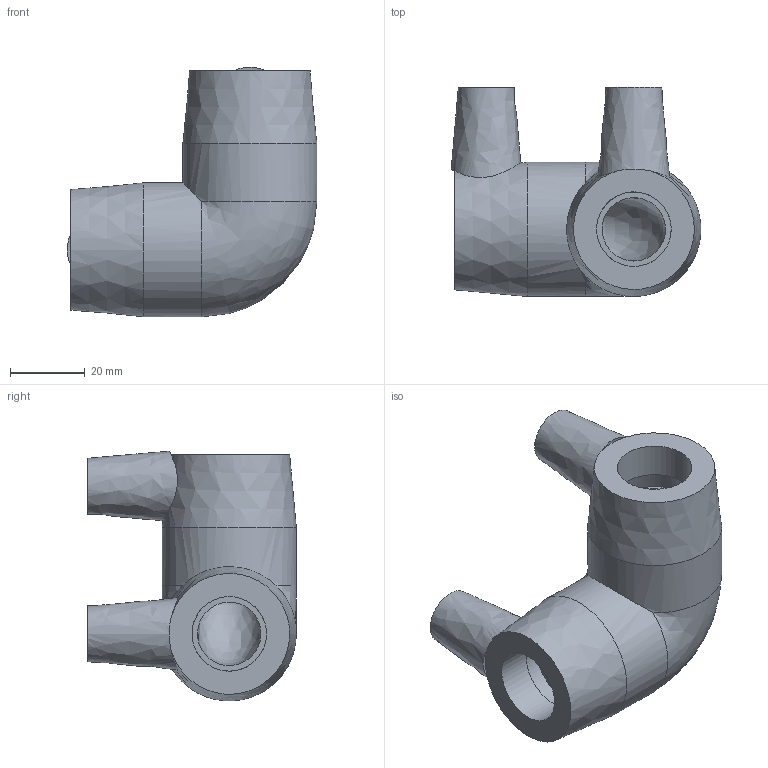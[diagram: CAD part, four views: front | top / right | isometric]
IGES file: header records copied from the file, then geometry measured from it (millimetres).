
Global section: file name: 490504020; native system: Autodesk Inventor 2026; preprocessor: unknown; author: KIM; date: 20260322.131451; units: millimetre
Bounding box: 66.99 x 56 x 67 mm (x, y, z)
Volume: 69069 mm3; surface area: 20208 mm2
Topology: 1 solids, 1 shells, 32 faces, 72 edges, 48 vertices
Faces by surface type: bspline 32
